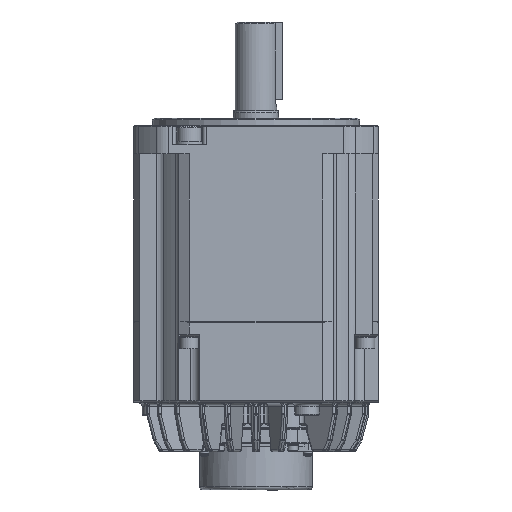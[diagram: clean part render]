
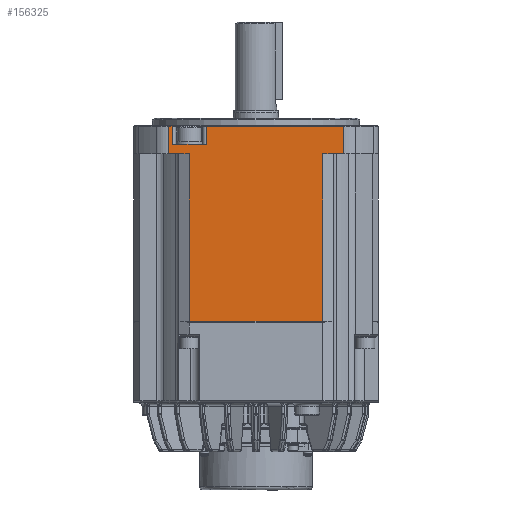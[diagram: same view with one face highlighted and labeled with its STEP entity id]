
A CAD part, front view. The second image highlights one B-rep face of the part: STEP entity #156325.
In plain terms, the highlighted planar face has unit normal (0, -1, 0) as drawn and (0, 0, -1) by its records, which use the part's own axes.
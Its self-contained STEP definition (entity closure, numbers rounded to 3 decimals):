
#1375 = CARTESIAN_POINT ( 'NONE',  ( 84.001, 89.944, -130. ) ) ;
#2812 = CARTESIAN_POINT ( 'NONE',  ( 11.211, 84.944, -130. ) ) ;
#2983 = VERTEX_POINT ( 'NONE', #122304 ) ;
#3593 = DIRECTION ( 'NONE',  ( 1., 0., 0. ) ) ;
#4865 = VERTEX_POINT ( 'NONE', #154655 ) ;
#7496 = ORIENTED_EDGE ( 'NONE', *, *, #145609, .T. ) ;
#8484 = LINE ( 'NONE', #138232, #74604 ) ;
#8795 = DIRECTION ( 'NONE',  ( 0., 1., 0. ) ) ;
#9818 = ORIENTED_EDGE ( 'NONE', *, *, #143728, .T. ) ;
#10825 = CARTESIAN_POINT ( 'NONE',  ( 12.999, 178.944, -130. ) ) ;
#11967 = AXIS2_PLACEMENT_3D ( 'NONE', #155704, #83233, #8795 ) ;
#13081 = ORIENTED_EDGE ( 'NONE', *, *, #135871, .T. ) ;
#13136 = CARTESIAN_POINT ( 'NONE',  ( 84.001, 75.244, -130. ) ) ;
#13377 = VERTEX_POINT ( 'NONE', #57267 ) ;
#13688 = CARTESIAN_POINT ( 'NONE',  ( 84.001, 178.944, -130. ) ) ;
#14381 = CARTESIAN_POINT ( 'NONE',  ( 94.965, 89.944, -130. ) ) ;
#16269 = CARTESIAN_POINT ( 'NONE',  ( 4., 75.244, -130. ) ) ;
#16324 = LINE ( 'NONE', #10825, #111636 ) ;
#17936 = VERTEX_POINT ( 'NONE', #126389 ) ;
#18751 = VECTOR ( 'NONE', #51065, 1000. ) ;
#19724 = ORIENTED_EDGE ( 'NONE', *, *, #142779, .T. ) ;
#19853 = CARTESIAN_POINT ( 'NONE',  ( 4., 178.944, -130. ) ) ;
#20720 = ORIENTED_EDGE ( 'NONE', *, *, #144680, .T. ) ;
#21541 = VECTOR ( 'NONE', #136456, 1000. ) ;
#22270 = ORIENTED_EDGE ( 'NONE', *, *, #141103, .T. ) ;
#22936 = VERTEX_POINT ( 'NONE', #96529 ) ;
#25736 = VERTEX_POINT ( 'NONE', #14381 ) ;
#26373 = LINE ( 'NONE', #1375, #88478 ) ;
#26541 = LINE ( 'NONE', #67228, #121763 ) ;
#28808 = CARTESIAN_POINT ( 'NONE',  ( 84.001, 178.944, -130. ) ) ;
#29608 = ORIENTED_EDGE ( 'NONE', *, *, #140847, .T. ) ;
#31290 = CARTESIAN_POINT ( 'NONE',  ( 22., 75.244, -130. ) ) ;
#31367 = DIRECTION ( 'NONE',  ( 0., 1., 0. ) ) ;
#32803 = FACE_OUTER_BOUND ( 'NONE', #113829, .T. ) ;
#35096 = VERTEX_POINT ( 'NONE', #57127 ) ;
#43206 = LINE ( 'NONE', #65075, #76056 ) ;
#45955 = PLANE ( 'NONE',  #11967 ) ;
#47304 = CARTESIAN_POINT ( 'NONE',  ( 2.035, 178.944, -130. ) ) ;
#47969 = DIRECTION ( 'NONE',  ( 0., 1., 0. ) ) ;
#49898 = CARTESIAN_POINT ( 'NONE',  ( 84.001, 178.944, -130. ) ) ;
#51065 = DIRECTION ( 'NONE',  ( -1., 0., 0. ) ) ;
#51300 = VERTEX_POINT ( 'NONE', #2812 ) ;
#51787 = CARTESIAN_POINT ( 'NONE',  ( 84.001, 89.944, -130. ) ) ;
#54174 = CARTESIAN_POINT ( 'NONE',  ( 94.965, 178.944, -130. ) ) ;
#57127 = CARTESIAN_POINT ( 'NONE',  ( 94.965, 75.244, -130. ) ) ;
#57267 = CARTESIAN_POINT ( 'NONE',  ( 14.789, 84.944, -130. ) ) ;
#58123 = ORIENTED_EDGE ( 'NONE', *, *, #136000, .T. ) ;
#59656 = LINE ( 'NONE', #125282, #18751 ) ;
#59804 = LINE ( 'NONE', #157485, #154566 ) ;
#61312 = VECTOR ( 'NONE', #133930, 1000. ) ;
#64141 = DIRECTION ( 'NONE',  ( 1., 0., 0. ) ) ;
#65075 = CARTESIAN_POINT ( 'NONE',  ( 84.001, 84.944, -130. ) ) ;
#66655 = ORIENTED_EDGE ( 'NONE', *, *, #139651, .T. ) ;
#66723 = CARTESIAN_POINT ( 'NONE',  ( 2.035, 75.244, -130. ) ) ;
#67228 = CARTESIAN_POINT ( 'NONE',  ( 84.001, 75.244, -130. ) ) ;
#67637 = VECTOR ( 'NONE', #94231, 1000. ) ;
#68267 = CARTESIAN_POINT ( 'NONE',  ( 22., 178.944, -130. ) ) ;
#70290 = ORIENTED_EDGE ( 'NONE', *, *, #134716, .T. ) ;
#71867 = CARTESIAN_POINT ( 'NONE',  ( 2.035, 89.944, -130. ) ) ;
#73740 = LINE ( 'NONE', #13136, #135720 ) ;
#73969 = VERTEX_POINT ( 'NONE', #71867 ) ;
#74604 = VECTOR ( 'NONE', #64141, 1000. ) ;
#75888 = VERTEX_POINT ( 'NONE', #31290 ) ;
#76056 = VECTOR ( 'NONE', #89930, 1000. ) ;
#78433 = VERTEX_POINT ( 'NONE', #123009 ) ;
#79033 = DIRECTION ( 'NONE',  ( -1., 0., 0. ) ) ;
#83233 = DIRECTION ( 'NONE',  ( 0., 0., -1. ) ) ;
#84300 = ORIENTED_EDGE ( 'NONE', *, *, #146741, .T. ) ;
#87517 = LINE ( 'NONE', #49898, #21541 ) ;
#88478 = VECTOR ( 'NONE', #138755, 1000. ) ;
#89723 = ORIENTED_EDGE ( 'NONE', *, *, #136104, .T. ) ;
#89930 = DIRECTION ( 'NONE',  ( -1., 0., 0. ) ) ;
#91156 = DIRECTION ( 'NONE',  ( 1., 0., 0. ) ) ;
#92061 = VECTOR ( 'NONE', #91156, 1000. ) ;
#93842 = LINE ( 'NONE', #152224, #155630 ) ;
#94231 = DIRECTION ( 'NONE',  ( 0., -1., 0. ) ) ;
#94295 = LINE ( 'NONE', #47304, #61312 ) ;
#95965 = DIRECTION ( 'NONE',  ( -1., 0., 0. ) ) ;
#96529 = CARTESIAN_POINT ( 'NONE',  ( 22., 84.944, -130. ) ) ;
#111636 = VECTOR ( 'NONE', #47969, 1000. ) ;
#112658 = DIRECTION ( 'NONE',  ( -1., 0., 0. ) ) ;
#113829 = EDGE_LOOP ( 'NONE', ( #7496, #84300, #70290, #58123, #13081, #89723, #151556, #66655, #136828, #29608, #22270, #19724, #119551, #9818, #20720 ) ) ;
#115618 = VERTEX_POINT ( 'NONE', #13688 ) ;
#119551 = ORIENTED_EDGE ( 'NONE', *, *, #152114, .T. ) ;
#121249 = LINE ( 'NONE', #28808, #92061 ) ;
#121763 = VECTOR ( 'NONE', #79033, 1000. ) ;
#122058 = LINE ( 'NONE', #68267, #150820 ) ;
#122304 = CARTESIAN_POINT ( 'NONE',  ( 48.5, 178.944, -130. ) ) ;
#123009 = CARTESIAN_POINT ( 'NONE',  ( 12.999, 89.944, -130. ) ) ;
#125282 = CARTESIAN_POINT ( 'NONE',  ( 84.001, 84.944, -130. ) ) ;
#126389 = CARTESIAN_POINT ( 'NONE',  ( 12.999, 178.944, -130. ) ) ;
#128360 = DIRECTION ( 'NONE',  ( 0., -1., 0. ) ) ;
#130049 = VECTOR ( 'NONE', #128360, 1000. ) ;
#133456 = LINE ( 'NONE', #19853, #67637 ) ;
#133930 = DIRECTION ( 'NONE',  ( 0., 1., 0. ) ) ;
#134485 = VERTEX_POINT ( 'NONE', #16269 ) ;
#134716 = EDGE_CURVE ( 'NONE', #150817, #73969, #94295, .T. ) ;
#135720 = VECTOR ( 'NONE', #112658, 1000. ) ;
#135871 = EDGE_CURVE ( 'NONE', #78433, #17936, #16324, .T. ) ;
#136000 = EDGE_CURVE ( 'NONE', #73969, #78433, #8484, .T. ) ;
#136104 = EDGE_CURVE ( 'NONE', #17936, #2983, #121249, .T. ) ;
#136456 = DIRECTION ( 'NONE',  ( 0., -1., 0. ) ) ;
#136828 = ORIENTED_EDGE ( 'NONE', *, *, #147658, .T. ) ;
#137315 = EDGE_CURVE ( 'NONE', #2983, #115618, #93842, .T. ) ;
#138232 = CARTESIAN_POINT ( 'NONE',  ( 84.001, 89.944, -130. ) ) ;
#138755 = DIRECTION ( 'NONE',  ( 1., 0., 0. ) ) ;
#139651 = EDGE_CURVE ( 'NONE', #115618, #149349, #87517, .T. ) ;
#140847 = EDGE_CURVE ( 'NONE', #25736, #35096, #158902, .T. ) ;
#141103 = EDGE_CURVE ( 'NONE', #35096, #75888, #73740, .T. ) ;
#142779 = EDGE_CURVE ( 'NONE', #75888, #22936, #122058, .T. ) ;
#143728 = EDGE_CURVE ( 'NONE', #13377, #51300, #59804, .T. ) ;
#144680 = EDGE_CURVE ( 'NONE', #51300, #4865, #59656, .T. ) ;
#145609 = EDGE_CURVE ( 'NONE', #4865, #134485, #133456, .T. ) ;
#146741 = EDGE_CURVE ( 'NONE', #134485, #150817, #26541, .T. ) ;
#147658 = EDGE_CURVE ( 'NONE', #149349, #25736, #26373, .T. ) ;
#149349 = VERTEX_POINT ( 'NONE', #51787 ) ;
#150817 = VERTEX_POINT ( 'NONE', #66723 ) ;
#150820 = VECTOR ( 'NONE', #31367, 1000. ) ;
#151556 = ORIENTED_EDGE ( 'NONE', *, *, #137315, .T. ) ;
#152114 = EDGE_CURVE ( 'NONE', #22936, #13377, #43206, .T. ) ;
#152224 = CARTESIAN_POINT ( 'NONE',  ( 84.001, 178.944, -130. ) ) ;
#154566 = VECTOR ( 'NONE', #95965, 1000. ) ;
#154655 = CARTESIAN_POINT ( 'NONE',  ( 4., 84.944, -130. ) ) ;
#155630 = VECTOR ( 'NONE', #3593, 1000. ) ;
#155704 = CARTESIAN_POINT ( 'NONE',  ( 84.001, 178.944, -130. ) ) ;
#156325 = ADVANCED_FACE ( 'NONE', ( #32803 ), #45955, .T. ) ;
#157485 = CARTESIAN_POINT ( 'NONE',  ( 84.001, 84.944, -130. ) ) ;
#158902 = LINE ( 'NONE', #54174, #130049 ) ;
